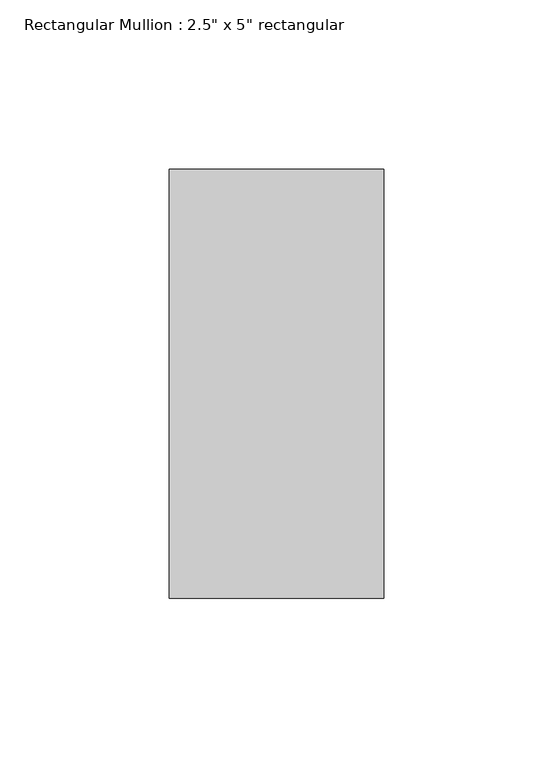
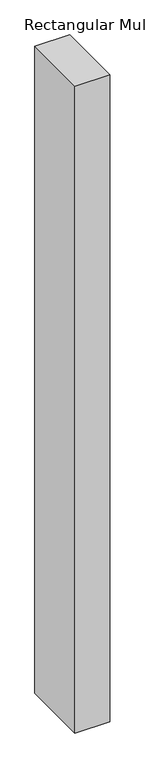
"""IFC4 building model written with IfcOpenShell, lengths in millimetres: member geometry."""

from ifc_helpers import new_model, si_unit, frame, origin, place, context, project, spatial, polyline, outline, extrude, source, transform, mapped, element, save


def member_d635bea1(model_context):
    return source(origin(), model_context, "Body", "SweptSolid", [
        extrude(outline(polyline([(0.0, 63.5), (0.0, -63.5), (-63.5, -63.5), (-63.5, 63.5), (0.0, 63.5)])), frame((0.0, 0.0, -1250.95), z_axis=(0.0, 0.0, 1.0), x_axis=(1.0, 0.0, 0.0)), (0.0, 0.0, 1.0), 1250.95),
    ])


if __name__ == "__main__":
    model = new_model("IFC4")
    model_context = context("Model", 3, world=origin())
    ifc_project = project(units=[si_unit("LENGTHUNIT", "METRE", prefix="MILLI")], contexts=[model_context])
    site = spatial("IfcSite", under=ifc_project)
    building = spatial("IfcBuilding", under=site)
    placement = place(None, origin())
    member_shape = member_d635bea1(model_context)
    element("IfcMember", 1, ObjectType="Rectangular Mullion : 2.5\" x 5\" rectangular", at=placement, inside=building, context=model_context, shape_type="MappedRepresentation", body=[
        mapped(member_shape, transform((0.0, 0.0, 0.0), x_axis=(1.0, 0.0, 0.0), y_axis=(0.0, 1.0, 0.0), z_axis=(0.0, 0.0, 1.0))),
    ])
    save(model, "model.ifc")
